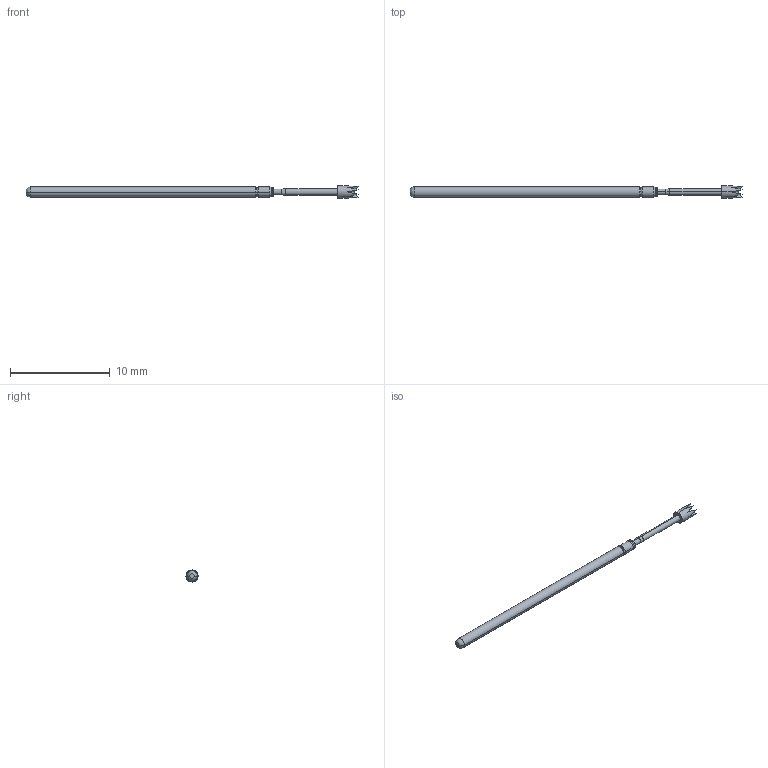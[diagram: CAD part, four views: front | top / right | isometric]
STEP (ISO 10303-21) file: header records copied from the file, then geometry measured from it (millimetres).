
FILE_DESCRIPTION (( 'STEP AP203' ), '1' );
FILE_NAME ('101024-077-922 (REST).STEP', '2022-11-18T09:53:43', ( '' ), ( '' ), 'SwSTEP 2.0', 'SolidWorks 2022', '' );
FILE_SCHEMA (( 'CONFIG_CONTROL_DESIGN' ));
Length unit declared in the file: inch
Products named in the file (1): 101024-077-922 (REST)
Bounding box: 33.27 x 1.22 x 1.22 mm (x, y, z)
Volume: 23.9 mm3; surface area: 104.9 mm2
Topology: 1 solids, 1 shells, 52 faces, 110 edges, 63 vertices
Faces by surface type: plane 28, cylinder 12, torus 6, cone 6
Entity records: 1449 total; most frequent: CARTESIAN_POINT 274, DIRECTION 244, ORIENTED_EDGE 220, EDGE_CURVE 110, AXIS2_PLACEMENT_3D 97, VERTEX_POINT 63, EDGE_LOOP 55, ADVANCED_FACE 52
